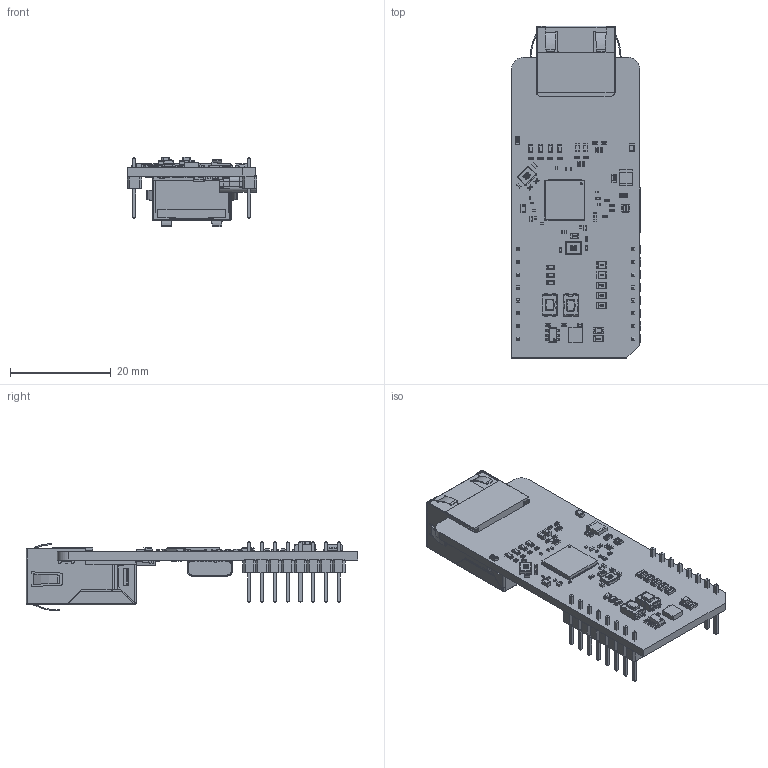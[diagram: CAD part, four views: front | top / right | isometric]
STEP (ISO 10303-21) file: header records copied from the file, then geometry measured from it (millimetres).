
FILE_DESCRIPTION(('Open CASCADE Model'),'2;1');
FILE_NAME('Open CASCADE Shape Model','2026-02-02T11:53:55',('Author'),( 'Open CASCADE'),'Open CASCADE STEP processor 6.8','Open CASCADE 6.8' ,'Unknown');
FILE_SCHEMA(('AUTOMOTIVE_DESIGN { 1 0 10303 214 1 1 1 1 }'));
Length unit declared in the file: millimetre
Products named in the file (167): PCB; Board; JP3; User_Library-R_0805; CN2; 7498210003; Shielding; Insulator; R9; User_Library-R_0402; FB3; User_Library-Chip_InductorINDC1608X95N; C39; User_Library-SMD_CAPACITOR1210; U3; QFN68(8x8mm); U2; User_Library-SOT23-6-2; U1; 1118698696; Extruded; R4; C1; User_Library-SMD_CAPACITOR0402; R2; LD1; led_0805_green; R1; R3; MBD1; Header_1x8; Free-Models; 1240637040; User_Library-PinHeaderX5-1_PinHeaderX5_Body_1; User_Library-PinHeaderX5-1_PinHeaderX5_Pins_1; C2; C3; C4; C5; C8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
Assembly tree (267 placements, depth 10):
  PCB
    Board
    JP3
      User_Library-R_0805
    CN2
      7498210003
        Shielding
        Insulator
    R9
      User_Library-R_0402
    FB3
      User_Library-Chip_InductorINDC1608X95N
    C39
      User_Library-SMD_CAPACITOR1210
    U3
      QFN68(8x8mm)
    U2
      User_Library-SOT23-6-2
    U1
      1118698696
        Extruded
    R4
      User_Library-R_0402
    C1
      User_Library-SMD_CAPACITOR0402
    R2
      User_Library-R_0402
    LD1
      led_0805_green
    R1
      User_Library-R_0805
    R3
      User_Library-R_0402
    MBD1
      Header_1x8  x2
        PCB
          Free-Models
            1240637040  x2
              User_Library-PinHeaderX5-1_PinHeaderX5_Body_1
              User_Library-PinHeaderX5-1_PinHeaderX5_Pins_1
    C2
      User_Library-SMD_CAPACITOR0402
    C3
      User_Library-SMD_CAPACITOR0402
    C4
      User_Library-SMD_CAPACITOR0402
    C5
      User_Library-SMD_CAPACITOR0402
    C8
      User_Library-SMD_CAPACITOR0402
    C9
      User_Library-SMD_CAPACITOR0402
    C10
      User_Library-SMD_CAPACITOR0402
    C11
      User_Library-SMD_CAPACITOR0402
    C12
      User_Library-SMD_CAPACITOR0402
    C13
      User_Library-SMD_CAPACITOR
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Bounding box: 25.78 x 65.91 x 13.85 mm (x, y, z)
Volume: 5158.4 mm3; surface area: 10140.9 mm2
Topology: 319 solids, 319 shells, 9206 faces, 23427 edges, 14861 vertices
Faces by surface type: plane 5921, bspline 1524, cylinder 1373, sphere 370, cone 12, torus 6
Full cylindrical faces by diameter (mm): 0.2 x1, 0.6 x2, 1.2 x2
Entity records: 132171 total; most frequent: CARTESIAN_POINT 33094, ORIENTED_EDGE 17092, DIRECTION 15441, EDGE_CURVE 8546, LINE 6313, VECTOR 6313, VERTEX_POINT 5535, AXIS2_PLACEMENT_3D 4564
